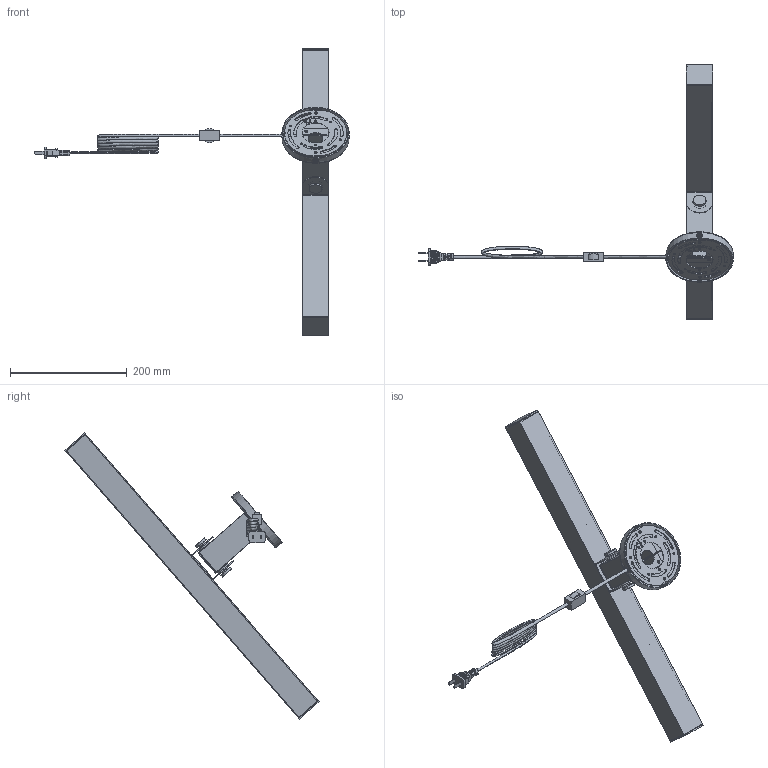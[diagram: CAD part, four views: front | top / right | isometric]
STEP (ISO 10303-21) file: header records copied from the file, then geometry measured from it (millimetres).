
FILE_DESCRIPTION((''),'2;1');
FILE_NAME('PIC10-E0_ASM','2024-12-17T',('steven.luo'),(''),'PRO/ENGINEER BY PARAMETRIC TECHNOLOGY CORPORATION, 2009360','PRO/ENGINEER BY PARAMETRIC TECHNOLOGY CORPORATION, 2009360','');
FILE_SCHEMA(('AUTOMOTIVE_DESIGN_CC2 { 1 2 10303 214 -1 1 5 2 }'));
Length unit declared in the file: millimetre
Products named in the file (17): PIC10-01; SJW4407-11; PIC10-02; PIC10-13; PIC10-14; PIC10-E2_ASM; 7TDD120101BK; PIC10-04; PIC10-07; PIC10-03; PIC10-08; PIC10-E1_ASM; RFALL32W-37; PIC10-06; PIC10-12; SLT-532; PIC10-E0_ASM
Assembly tree (23 placements, depth 3):
  PIC10-E0_ASM
    PIC10-01
    SJW4407-11
    PIC10-E2_ASM
      PIC10-02
      PIC10-13
      PIC10-14
    7TDD120101BK  x4
    PIC10-04
    PIC10-07  x2
    PIC10-E1_ASM
      PIC10-03
      PIC10-08  x2
    RFALL32W-37
    PIC10-06  x2
    PIC10-12
    SLT-532  x2
Bounding box: 537.8 x 434.57 x 489.54 mm (x, y, z)
Volume: 446367 mm3; surface area: 407068.5 mm2
Topology: 23 solids, 30 shells, 825 faces, 2113 edges, 1330 vertices
Faces by surface type: plane 392, cylinder 335, sphere 48, cone 24, bspline 18, torus 8
Entity records: 50798 total; most frequent: CARTESIAN_POINT 29855, DIRECTION 4057, ORIENTED_EDGE 3818, EDGE_CURVE 1921, AXIS2_PLACEMENT_3D 1461, VERTEX_POINT 1236, VECTOR 1135, LINE 1135
